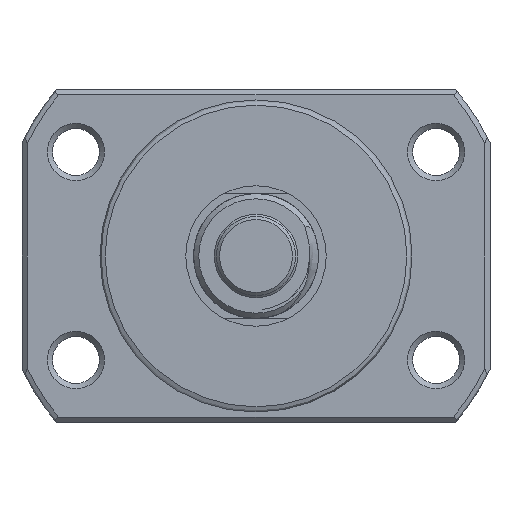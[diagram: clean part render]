
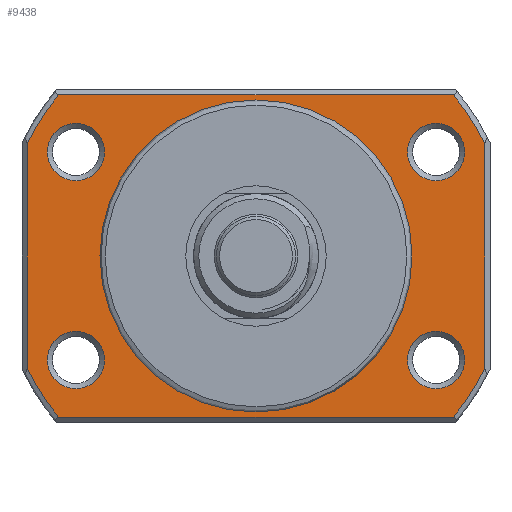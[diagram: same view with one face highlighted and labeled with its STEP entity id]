
A CAD part, left-side view. The second image highlights one B-rep face of the part: STEP entity #9438.
In plain terms, the highlighted planar face has unit normal (-1, 0, 0).
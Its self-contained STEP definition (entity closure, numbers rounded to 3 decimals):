
#59 = VERTEX_POINT ( 'NONE', #8184 ) ;
#312 = DIRECTION ( 'NONE',  ( 0., 0., 1. ) ) ;
#438 = DIRECTION ( 'NONE',  ( 0., 0., -1. ) ) ;
#483 = CARTESIAN_POINT ( 'NONE',  ( -10.324, 17.321, -7.25 ) ) ;
#568 = VERTEX_POINT ( 'NONE', #10778 ) ;
#634 = LINE ( 'NONE', #4608, #11587 ) ;
#1257 = DIRECTION ( 'NONE',  ( -1., 0., 0. ) ) ;
#1449 = EDGE_CURVE ( 'NONE', #3287, #9038, #10113, .T. ) ;
#1956 = VERTEX_POINT ( 'NONE', #7582 ) ;
#2110 = CARTESIAN_POINT ( 'NONE',  ( -10.324, 0., 0. ) ) ;
#2171 = AXIS2_PLACEMENT_3D ( 'NONE', #12576, #6679, #18224 ) ;
#2250 = CARTESIAN_POINT ( 'NONE',  ( -10.324, -22., -10.782 ) ) ;
#2274 = DIRECTION ( 'NONE',  ( -1., 0., 0. ) ) ;
#2772 = CIRCLE ( 'NONE', #10128, 2.75 ) ;
#3287 = VERTEX_POINT ( 'NONE', #12009 ) ;
#3394 = EDGE_CURVE ( 'NONE', #3967, #7083, #13759, .T. ) ;
#3603 = DIRECTION ( 'NONE',  ( 1., 0., 0. ) ) ;
#3614 = EDGE_CURVE ( 'NONE', #1956, #1956, #6886, .T. ) ;
#3651 = PLANE ( 'NONE',  #17485 ) ;
#3660 = VECTOR ( 'NONE', #438, 1000. ) ;
#3815 = EDGE_LOOP ( 'NONE', ( #16335 ) ) ;
#3937 = AXIS2_PLACEMENT_3D ( 'NONE', #13901, #1257, #6614 ) ;
#3967 = VERTEX_POINT ( 'NONE', #11568 ) ;
#4065 = EDGE_CURVE ( 'NONE', #13207, #13207, #2772, .T. ) ;
#4279 = LINE ( 'NONE', #14437, #12482 ) ;
#4476 = EDGE_CURVE ( 'NONE', #568, #568, #16024, .T. ) ;
#4524 = AXIS2_PLACEMENT_3D ( 'NONE', #18003, #5535, #9676 ) ;
#4608 = CARTESIAN_POINT ( 'NONE',  ( -10.324, -22., 0. ) ) ;
#4632 = EDGE_CURVE ( 'NONE', #8838, #3967, #9248, .T. ) ;
#4647 = CARTESIAN_POINT ( 'NONE',  ( -10.324, 17.321, -10. ) ) ;
#4881 = DIRECTION ( 'NONE',  ( 0., 0., 1. ) ) ;
#5031 = FACE_BOUND ( 'NONE', #14015, .T. ) ;
#5071 = CARTESIAN_POINT ( 'NONE',  ( -10.324, 17.321, 10. ) ) ;
#5114 = AXIS2_PLACEMENT_3D ( 'NONE', #5071, #3603, #10701 ) ;
#5124 = FACE_BOUND ( 'NONE', #3815, .T. ) ;
#5214 = FACE_OUTER_BOUND ( 'NONE', #6576, .T. ) ;
#5535 = DIRECTION ( 'NONE',  ( -1., 0., 0. ) ) ;
#6303 = AXIS2_PLACEMENT_3D ( 'NONE', #8918, #12200, #12974 ) ;
#6530 = VERTEX_POINT ( 'NONE', #2250 ) ;
#6576 = EDGE_LOOP ( 'NONE', ( #17159, #10369, #7275, #17398, #18092, #9760, #8142, #8903 ) ) ;
#6598 = AXIS2_PLACEMENT_3D ( 'NONE', #14912, #2274, #11867 ) ;
#6614 = DIRECTION ( 'NONE',  ( 0., 0., 1. ) ) ;
#6679 = DIRECTION ( 'NONE',  ( 1., 0., 0. ) ) ;
#6886 = CIRCLE ( 'NONE', #5114, 2.75 ) ;
#7083 = VERTEX_POINT ( 'NONE', #11801 ) ;
#7275 = ORIENTED_EDGE ( 'NONE', *, *, #1449, .T. ) ;
#7582 = CARTESIAN_POINT ( 'NONE',  ( -10.324, 17.321, 12.75 ) ) ;
#7597 = DIRECTION ( 'NONE',  ( 1., 0., 0. ) ) ;
#7668 = EDGE_CURVE ( 'NONE', #7083, #6530, #16907, .T. ) ;
#7727 = DIRECTION ( 'NONE',  ( -1., 0., 0. ) ) ;
#7800 = FACE_BOUND ( 'NONE', #9852, .T. ) ;
#8142 = ORIENTED_EDGE ( 'NONE', *, *, #7668, .T. ) ;
#8184 = CARTESIAN_POINT ( 'NONE',  ( -10.324, -17.321, 12.75 ) ) ;
#8341 = CIRCLE ( 'NONE', #2171, 2.75 ) ;
#8838 = VERTEX_POINT ( 'NONE', #9561 ) ;
#8903 = ORIENTED_EDGE ( 'NONE', *, *, #13088, .T. ) ;
#8918 = CARTESIAN_POINT ( 'NONE',  ( -10.324, -17.321, -10. ) ) ;
#9038 = VERTEX_POINT ( 'NONE', #11040 ) ;
#9183 = FACE_BOUND ( 'NONE', #16791, .T. ) ;
#9248 = CIRCLE ( 'NONE', #3937, 24.5 ) ;
#9268 = DIRECTION ( 'NONE',  ( -1., 0., 0. ) ) ;
#9278 = CARTESIAN_POINT ( 'NONE',  ( -10.324, 15., 0. ) ) ;
#9438 = ADVANCED_FACE ( 'NONE', ( #5031, #9183, #7800, #16284, #5214, #5124 ), #3651, .T. ) ;
#9536 = AXIS2_PLACEMENT_3D ( 'NONE', #2110, #7727, #14838 ) ;
#9561 = CARTESIAN_POINT ( 'NONE',  ( -10.324, 22., -10.782 ) ) ;
#9676 = DIRECTION ( 'NONE',  ( 0., 0., 1. ) ) ;
#9760 = ORIENTED_EDGE ( 'NONE', *, *, #3394, .T. ) ;
#9852 = EDGE_LOOP ( 'NONE', ( #13370 ) ) ;
#10113 = CIRCLE ( 'NONE', #17782, 24.5 ) ;
#10128 = AXIS2_PLACEMENT_3D ( 'NONE', #4647, #7597, #312 ) ;
#10369 = ORIENTED_EDGE ( 'NONE', *, *, #17804, .T. ) ;
#10376 = EDGE_CURVE ( 'NONE', #59, #59, #8341, .T. ) ;
#10513 = VERTEX_POINT ( 'NONE', #12391 ) ;
#10542 = CARTESIAN_POINT ( 'NONE',  ( -10.324, 15., -15.5 ) ) ;
#10615 = VERTEX_POINT ( 'NONE', #12489 ) ;
#10701 = DIRECTION ( 'NONE',  ( 0., 0., 1. ) ) ;
#10752 = DIRECTION ( 'NONE',  ( 0., 0., 1. ) ) ;
#10778 = CARTESIAN_POINT ( 'NONE',  ( -10.324, 0., 15. ) ) ;
#11003 = CIRCLE ( 'NONE', #4524, 24.5 ) ;
#11040 = CARTESIAN_POINT ( 'NONE',  ( -10.324, 22., 10.782 ) ) ;
#11185 = ORIENTED_EDGE ( 'NONE', *, *, #14446, .T. ) ;
#11568 = CARTESIAN_POINT ( 'NONE',  ( -10.324, 18.974, -15.5 ) ) ;
#11587 = VECTOR ( 'NONE', #4881, 1000. ) ;
#11599 = LINE ( 'NONE', #11779, #3660 ) ;
#11668 = DIRECTION ( 'NONE',  ( 0., 1., 0. ) ) ;
#11779 = CARTESIAN_POINT ( 'NONE',  ( -10.324, 22., 0. ) ) ;
#11801 = CARTESIAN_POINT ( 'NONE',  ( -10.324, -18.974, -15.5 ) ) ;
#11867 = DIRECTION ( 'NONE',  ( 0., 0., 1. ) ) ;
#12009 = CARTESIAN_POINT ( 'NONE',  ( -10.324, 18.974, 15.5 ) ) ;
#12200 = DIRECTION ( 'NONE',  ( 1., 0., 0. ) ) ;
#12391 = CARTESIAN_POINT ( 'NONE',  ( -10.324, -22., 10.782 ) ) ;
#12482 = VECTOR ( 'NONE', #11668, 1000. ) ;
#12489 = CARTESIAN_POINT ( 'NONE',  ( -10.324, -18.974, 15.5 ) ) ;
#12576 = CARTESIAN_POINT ( 'NONE',  ( -10.324, -17.321, 10. ) ) ;
#12974 = DIRECTION ( 'NONE',  ( 0., 0., 1. ) ) ;
#13088 = EDGE_CURVE ( 'NONE', #6530, #10513, #634, .T. ) ;
#13207 = VERTEX_POINT ( 'NONE', #483 ) ;
#13370 = ORIENTED_EDGE ( 'NONE', *, *, #4065, .T. ) ;
#13604 = DIRECTION ( 'NONE',  ( -1., 0., 0. ) ) ;
#13759 = LINE ( 'NONE', #10542, #16890 ) ;
#13901 = CARTESIAN_POINT ( 'NONE',  ( -10.324, 0., 0. ) ) ;
#13905 = CARTESIAN_POINT ( 'NONE',  ( -10.324, -17.321, -7.25 ) ) ;
#13950 = CIRCLE ( 'NONE', #6303, 2.75 ) ;
#14015 = EDGE_LOOP ( 'NONE', ( #17854 ) ) ;
#14315 = EDGE_CURVE ( 'NONE', #9038, #8838, #11599, .T. ) ;
#14437 = CARTESIAN_POINT ( 'NONE',  ( -10.324, 15., 15.5 ) ) ;
#14446 = EDGE_CURVE ( 'NONE', #18254, #18254, #13950, .T. ) ;
#14838 = DIRECTION ( 'NONE',  ( 0., 0., 1. ) ) ;
#14895 = DIRECTION ( 'NONE',  ( 0., 0., 1. ) ) ;
#14912 = CARTESIAN_POINT ( 'NONE',  ( -10.324, 0., 0. ) ) ;
#15188 = EDGE_LOOP ( 'NONE', ( #17987 ) ) ;
#15801 = EDGE_CURVE ( 'NONE', #10513, #10615, #11003, .T. ) ;
#16024 = CIRCLE ( 'NONE', #9536, 15. ) ;
#16257 = DIRECTION ( 'NONE',  ( 0., -1., 0. ) ) ;
#16284 = FACE_BOUND ( 'NONE', #15188, .T. ) ;
#16335 = ORIENTED_EDGE ( 'NONE', *, *, #4476, .F. ) ;
#16457 = CARTESIAN_POINT ( 'NONE',  ( -10.324, 0., 0. ) ) ;
#16791 = EDGE_LOOP ( 'NONE', ( #11185 ) ) ;
#16890 = VECTOR ( 'NONE', #16257, 1000. ) ;
#16907 = CIRCLE ( 'NONE', #6598, 24.5 ) ;
#17159 = ORIENTED_EDGE ( 'NONE', *, *, #15801, .T. ) ;
#17398 = ORIENTED_EDGE ( 'NONE', *, *, #14315, .T. ) ;
#17485 = AXIS2_PLACEMENT_3D ( 'NONE', #9278, #13604, #10752 ) ;
#17782 = AXIS2_PLACEMENT_3D ( 'NONE', #16457, #9268, #14895 ) ;
#17804 = EDGE_CURVE ( 'NONE', #10615, #3287, #4279, .T. ) ;
#17854 = ORIENTED_EDGE ( 'NONE', *, *, #10376, .T. ) ;
#17987 = ORIENTED_EDGE ( 'NONE', *, *, #3614, .T. ) ;
#18003 = CARTESIAN_POINT ( 'NONE',  ( -10.324, 0., 0. ) ) ;
#18092 = ORIENTED_EDGE ( 'NONE', *, *, #4632, .T. ) ;
#18224 = DIRECTION ( 'NONE',  ( 0., 0., 1. ) ) ;
#18254 = VERTEX_POINT ( 'NONE', #13905 ) ;
